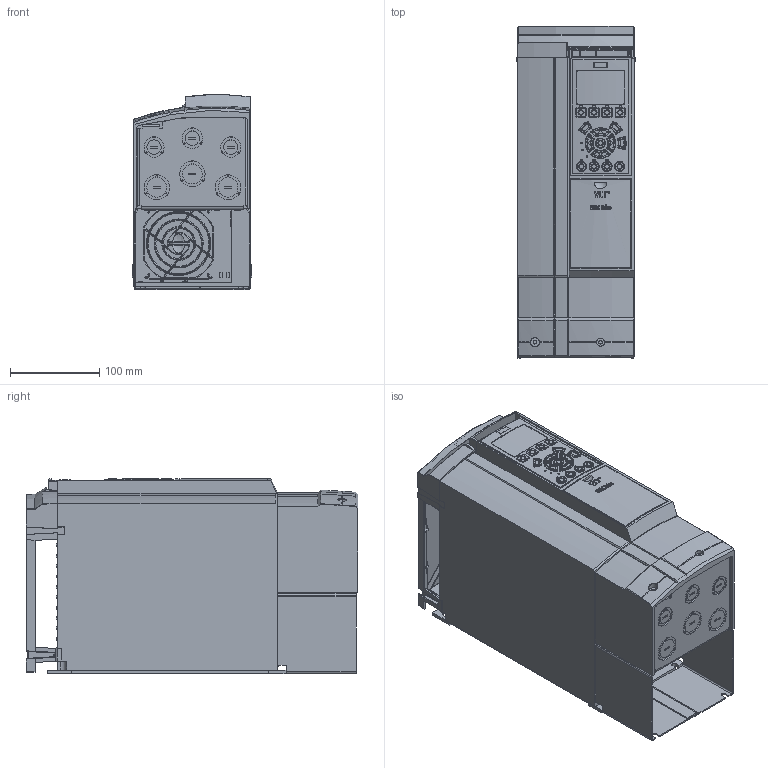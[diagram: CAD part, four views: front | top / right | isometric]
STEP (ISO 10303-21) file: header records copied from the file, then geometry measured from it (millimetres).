
FILE_DESCRIPTION((''),'2;1');
FILE_NAME('DANFOSS-FC100-A3-IP21-B-057','2007-03-07T',('Janardhan.Mankala'),('dan Drives A/S'),'PRO/ENGINEER BY PARAMETRIC TECHNOLOGY CORPORATION, 2006200','PRO/ENGINEER BY PARAMETRIC TECHNOLOGY CORPORATION, 2006200','');
FILE_SCHEMA(('CONFIG_CONTROL_DESIGN', 'GEOMETRIC_VALIDATION_PROPERTIES_MIM'));
Products named in the file (1): DANFOSS-FC100-A3-IP21-B-057
Bounding box: 134.22 x 372 x 219.6 mm (x, y, z)
Volume: 7790467.5 mm3; surface area: 511303.2 mm2
Topology: 16 solids, 38 shells, 4265 faces, 10850 edges, 6695 vertices
Faces by surface type: plane 1781, cylinder 1129, bspline 882, torus 201, sphere 127, extrusion 84, cone 61
Entity records: 224000 total; most frequent: CARTESIAN_POINT 76987, ORIENTED_EDGE 21666, DIRECTION 16288, PRESENTATION_STYLE_ASSIGNMENT 13209, STYLED_ITEM 11112, CURVE_STYLE 10834, EDGE_CURVE 10833, VERTEX_POINT 6695
